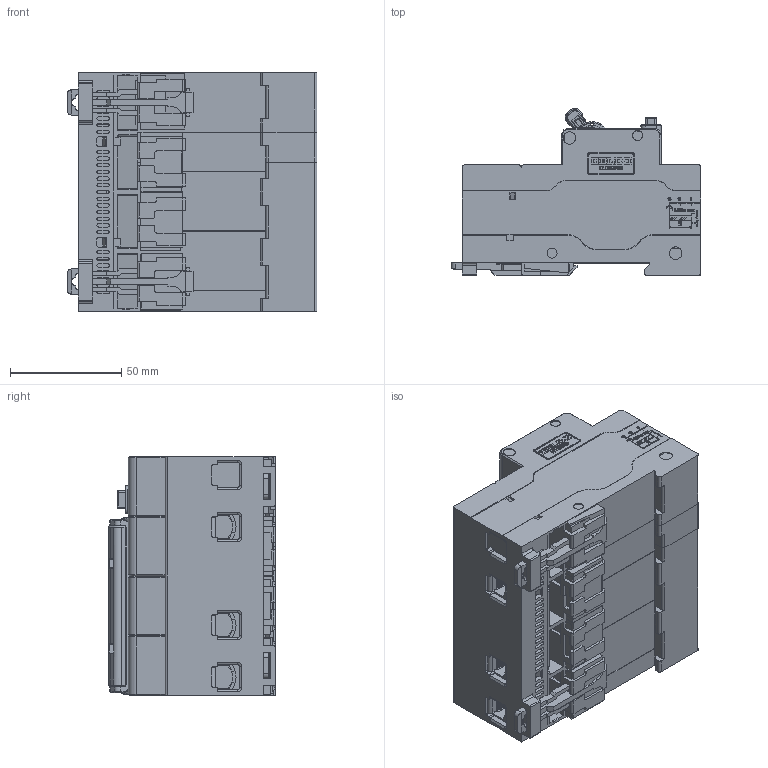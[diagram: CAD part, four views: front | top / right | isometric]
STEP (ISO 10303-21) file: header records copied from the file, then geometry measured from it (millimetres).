
FILE_DESCRIPTION((''),'2;1');
FILE_NAME('2256022000_ASM_SW0001','2019-07-26T',('xiao.wang'),(''),'PRO/ENGINEER BY PARAMETRIC TECHNOLOGY CORPORATION, 2015440','PRO/ENGINEER BY PARAMETRIC TECHNOLOGY CORPORATION, 2015440','');
FILE_SCHEMA(('CONFIG_CONTROL_DESIGN'));
Products named in the file (1): 2256022000_ASM_SW0001
Bounding box: 112.1 x 74.91 x 107.2 mm (x, y, z)
Volume: 458910.2 mm3; surface area: 191931.2 mm2
Topology: 1 solids, 11 shells, 8068 faces, 23077 edges, 15009 vertices
Faces by surface type: plane 5778, cylinder 1391, extrusion 543, cone 160, torus 110, bspline 55, sphere 31
Entity records: 268841 total; most frequent: CARTESIAN_POINT 58084, ORIENTED_EDGE 46092, DIRECTION 40469, EDGE_CURVE 23046, VECTOR 18533, LINE 17990, VERTEX_POINT 15009, AXIS2_PLACEMENT_3D 10968
